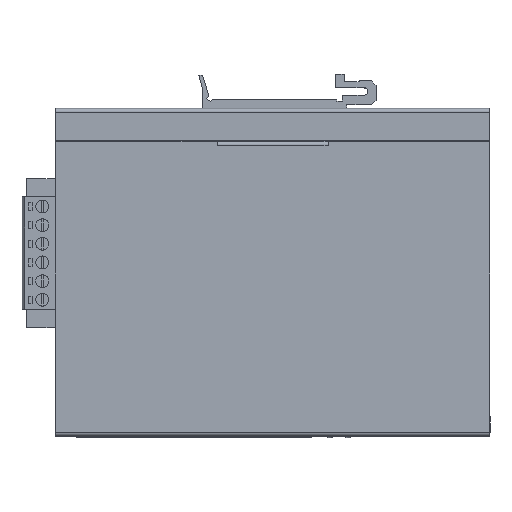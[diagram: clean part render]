
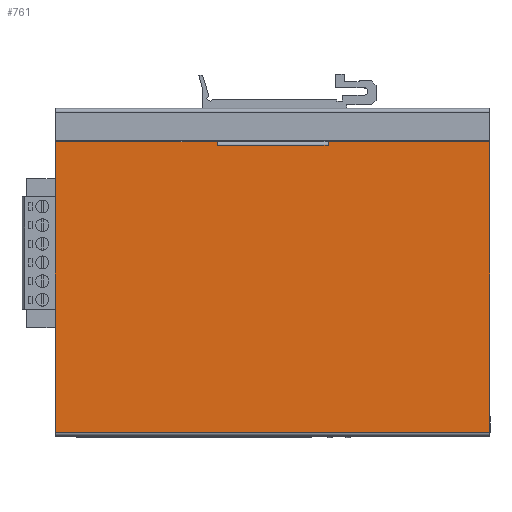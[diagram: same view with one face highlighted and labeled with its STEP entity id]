
A CAD part, top view. The second image highlights one B-rep face of the part: STEP entity #761.
In plain terms, the highlighted planar face has unit normal (0, 0, 1).
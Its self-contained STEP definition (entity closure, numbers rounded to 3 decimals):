
#27 = ORIENTED_EDGE ( 'NONE', *, *, #19858, .T. ) ;
#302 = CARTESIAN_POINT ( 'NONE',  ( 23.306, 0., 0. ) ) ;
#546 = VECTOR ( 'NONE', #17515, 1000. ) ;
#680 = DIRECTION ( 'NONE',  ( 1., 0., 0. ) ) ;
#761 = ADVANCED_FACE ( 'NONE', ( #11120 ), #13761, .T. ) ;
#886 = ORIENTED_EDGE ( 'NONE', *, *, #11804, .T. ) ;
#1002 = CARTESIAN_POINT ( 'NONE',  ( 23.306, 52.773, 0. ) ) ;
#1099 = VECTOR ( 'NONE', #3775, 1000. ) ;
#1514 = ORIENTED_EDGE ( 'NONE', *, *, #10917, .T. ) ;
#1664 = LINE ( 'NONE', #17037, #4641 ) ;
#1701 = ORIENTED_EDGE ( 'NONE', *, *, #15582, .T. ) ;
#1943 = CARTESIAN_POINT ( 'NONE',  ( -50.544, 52.773, 0. ) ) ;
#2194 = CARTESIAN_POINT ( 'NONE',  ( -6.694, 0., 0. ) ) ;
#2382 = EDGE_CURVE ( 'NONE', #10272, #20469, #15848, .T. ) ;
#2625 = VECTOR ( 'NONE', #13849, 1000. ) ;
#3053 = VERTEX_POINT ( 'NONE', #14452 ) ;
#3445 = DIRECTION ( 'NONE',  ( 1., 0., 0. ) ) ;
#3775 = DIRECTION ( 'NONE',  ( 0., 1., 0. ) ) ;
#4641 = VECTOR ( 'NONE', #8464, 1000. ) ;
#5009 = CARTESIAN_POINT ( 'NONE',  ( 23.306, 51.863, 0. ) ) ;
#5472 = CARTESIAN_POINT ( 'NONE',  ( 67.156, 52.773, 0. ) ) ;
#6830 = CARTESIAN_POINT ( 'NONE',  ( 67.156, -25.927, 0. ) ) ;
#6849 = VECTOR ( 'NONE', #680, 1000. ) ;
#7380 = VERTEX_POINT ( 'NONE', #1002 ) ;
#7401 = VECTOR ( 'NONE', #20551, 1000. ) ;
#7443 = ORIENTED_EDGE ( 'NONE', *, *, #17530, .T. ) ;
#8464 = DIRECTION ( 'NONE',  ( -1., 0., 0. ) ) ;
#8736 = ORIENTED_EDGE ( 'NONE', *, *, #9389, .T. ) ;
#8926 = CARTESIAN_POINT ( 'NONE',  ( -50.544, -25.927, 0. ) ) ;
#9389 = EDGE_CURVE ( 'NONE', #3053, #10272, #10584, .T. ) ;
#9505 = LINE ( 'NONE', #302, #7401 ) ;
#9550 = EDGE_LOOP ( 'NONE', ( #1514, #7443, #1701, #886, #18152, #8736, #21085, #27 ) ) ;
#9555 = LINE ( 'NONE', #5009, #18034 ) ;
#9680 = VERTEX_POINT ( 'NONE', #12240 ) ;
#10272 = VERTEX_POINT ( 'NONE', #13690 ) ;
#10432 = CARTESIAN_POINT ( 'NONE',  ( 0., 0., 0. ) ) ;
#10584 = LINE ( 'NONE', #1943, #2625 ) ;
#10669 = VECTOR ( 'NONE', #12134, 1000. ) ;
#10847 = CARTESIAN_POINT ( 'NONE',  ( -6.694, 51.863, 0. ) ) ;
#10917 = EDGE_CURVE ( 'NONE', #11153, #7380, #1664, .T. ) ;
#11120 = FACE_OUTER_BOUND ( 'NONE', #9550, .T. ) ;
#11153 = VERTEX_POINT ( 'NONE', #16389 ) ;
#11572 = VERTEX_POINT ( 'NONE', #10847 ) ;
#11753 = DIRECTION ( 'NONE',  ( -1., 0., 0. ) ) ;
#11804 = EDGE_CURVE ( 'NONE', #11572, #9680, #19984, .T. ) ;
#12134 = DIRECTION ( 'NONE',  ( 0., 1., 0. ) ) ;
#12240 = CARTESIAN_POINT ( 'NONE',  ( -6.694, 52.773, 0. ) ) ;
#12367 = EDGE_CURVE ( 'NONE', #9680, #3053, #21582, .T. ) ;
#13315 = LINE ( 'NONE', #5472, #10669 ) ;
#13631 = DIRECTION ( 'NONE',  ( 0., 0., 1. ) ) ;
#13690 = CARTESIAN_POINT ( 'NONE',  ( -50.544, -25.927, 0. ) ) ;
#13761 = PLANE ( 'NONE',  #20165 ) ;
#13849 = DIRECTION ( 'NONE',  ( 0., -1., 0. ) ) ;
#14452 = CARTESIAN_POINT ( 'NONE',  ( -50.544, 52.773, 0. ) ) ;
#15447 = VERTEX_POINT ( 'NONE', #16443 ) ;
#15582 = EDGE_CURVE ( 'NONE', #15447, #11572, #9555, .T. ) ;
#15848 = LINE ( 'NONE', #8926, #6849 ) ;
#16389 = CARTESIAN_POINT ( 'NONE',  ( 67.156, 52.773, 0. ) ) ;
#16443 = CARTESIAN_POINT ( 'NONE',  ( 23.306, 51.863, 0. ) ) ;
#17037 = CARTESIAN_POINT ( 'NONE',  ( -50.544, 52.773, 0. ) ) ;
#17515 = DIRECTION ( 'NONE',  ( -1., 0., 0. ) ) ;
#17530 = EDGE_CURVE ( 'NONE', #7380, #15447, #9505, .T. ) ;
#18034 = VECTOR ( 'NONE', #11753, 1000. ) ;
#18152 = ORIENTED_EDGE ( 'NONE', *, *, #12367, .T. ) ;
#19858 = EDGE_CURVE ( 'NONE', #20469, #11153, #13315, .T. ) ;
#19984 = LINE ( 'NONE', #2194, #1099 ) ;
#20165 = AXIS2_PLACEMENT_3D ( 'NONE', #10432, #13631, #3445 ) ;
#20469 = VERTEX_POINT ( 'NONE', #6830 ) ;
#20551 = DIRECTION ( 'NONE',  ( 0., -1., 0. ) ) ;
#21085 = ORIENTED_EDGE ( 'NONE', *, *, #2382, .T. ) ;
#21320 = CARTESIAN_POINT ( 'NONE',  ( -50.544, 52.773, 0. ) ) ;
#21582 = LINE ( 'NONE', #21320, #546 ) ;
